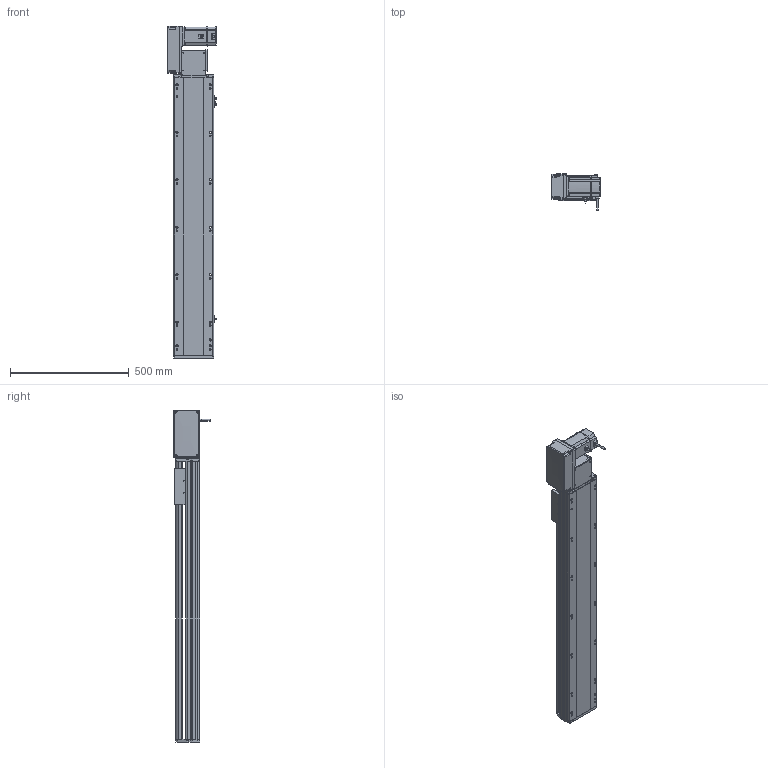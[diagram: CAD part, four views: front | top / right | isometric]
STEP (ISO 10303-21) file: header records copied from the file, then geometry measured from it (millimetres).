
FILE_DESCRIPTION (( 'STEP AP214' ), '1' );
FILE_NAME ('RTB17S-XX-900-L-M75-C4.STEP', '2025-12-12T00:12:42', ( '' ), ( '' ), 'SwSTEP 2.0', 'SolidWorks 2018', '' );
FILE_SCHEMA (( 'AUTOMOTIVE_DESIGN' ));
Length unit declared in the file: millimetre
Products named in the file (15): RTB17S-L-004-賑釱^RTB17S-賑釱_RTB17S-XX-XX-L-M75-C4; EE672^RTB17S-XX-XX-L-M75-C4; RTB17-R-011菁釱^RTB17S-XX-XX-L-M75-C4; RTB17S-L-々湍釱蚾饜-750W^RTB17S-XX-XX-L-M75-C4; RTB17S-L-007奻裔^RTB17S-XX-XX-L-M75-C4; 750W萇儂^RTB17S-XX-XX-L-M75-C4; RTB17S-XX-900-L-M75-C4; RTB22S-GY-005P^RTB17S-L-々湍釱蚾饜-750W_RTB17S-XX-XX-L-M75-C4; RTB22S-GY-008-M75--萇儂啣^RTB17S-L-々湍釱蚾饜-750W_RTB17S-XX-XX-L-M75-C4; RTB22S-GY-018P^RTB17S-L-々湍釱蚾饜-750W_RTB17S-XX-XX-L-M75-C4; RTB22S-GY-017P^RTB17S-L-々湍釱蚾饜-750W_RTB17S-XX-XX-L-M75-C4; RMP17S-L-014-T20-P75--々湍釱^RTB17S-L-々湍釱蚾饜-750W_RTB17S-XX-XX-L-M75-C4; RTH13-BL-012覜茼え俋离^RTB17S-賑釱_RTB17S-XX-XX-L-M75-C4; RTB17S-賑釱^RTB17S-XX-XX-L-M75-C4; RTB17S-L-001-耜醱啣^RTB17S-XX-XX-L-M75-C4
Assembly tree (17 placements, depth 3):
  RTB17S-XX-900-L-M75-C4
    RTB17-R-011菁釱^RTB17S-XX-XX-L-M75-C4
    EE672^RTB17S-XX-XX-L-M75-C4  x3
    RTB17S-L-001-耜醱啣^RTB17S-XX-XX-L-M75-C4
    RTB17S-賑釱^RTB17S-XX-XX-L-M75-C4
      RTB17S-L-004-賑釱^RTB17S-賑釱_RTB17S-XX-XX-L-M75-C4
      RTH13-BL-012覜茼え俋离^RTB17S-賑釱_RTB17S-XX-XX-L-M75-C4
    RTB17S-L-007奻裔^RTB17S-XX-XX-L-M75-C4
    750W萇儂^RTB17S-XX-XX-L-M75-C4
    RTB17S-L-々湍釱蚾饜-750W^RTB17S-XX-XX-L-M75-C4
      RMP17S-L-014-T20-P75--々湍釱^RTB17S-L-々湍釱蚾饜-750W_RTB17S-XX-XX-L-M75-C4
      RTB22S-GY-005P^RTB17S-L-々湍釱蚾饜-750W_RTB17S-XX-XX-L-M75-C4
      RTB22S-GY-017P^RTB17S-L-々湍釱蚾饜-750W_RTB17S-XX-XX-L-M75-C4  x2
      RTB22S-GY-008-M75--萇儂啣^RTB17S-L-々湍釱蚾饜-750W_RTB17S-XX-XX-L-M75-C4
      RTB22S-GY-018P^RTB17S-L-々湍釱蚾饜-750W_RTB17S-XX-XX-L-M75-C4
Bounding box: 210.4 x 152.7 x 1399 mm (x, y, z)
Volume: 11573402.1 mm3; surface area: 1948985.5 mm2
Topology: 17 solids, 17 shells, 2089 faces, 5782 edges, 3734 vertices
Faces by surface type: plane 970, cylinder 703, bspline 294, cone 110, sphere 8, torus 4
Entity records: 58102 total; most frequent: CARTESIAN_POINT 17046, ORIENTED_EDGE 8408, DIRECTION 7862, EDGE_CURVE 4204, AXIS2_PLACEMENT_3D 2754, VERTEX_POINT 2738, LINE 2354, VECTOR 2354
